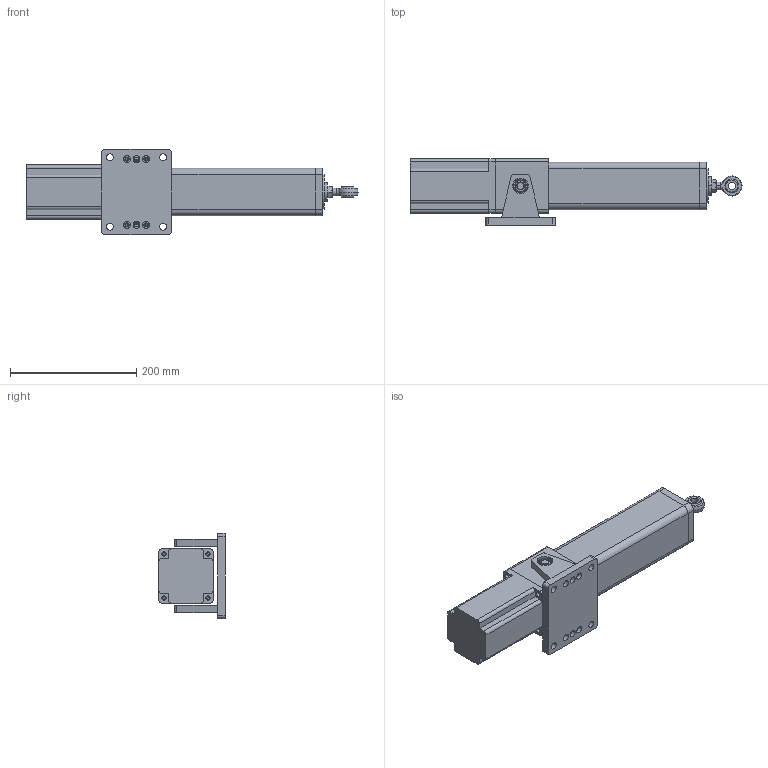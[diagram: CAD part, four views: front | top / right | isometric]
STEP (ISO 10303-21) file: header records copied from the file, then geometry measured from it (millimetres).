
FILE_DESCRIPTION (( 'STEP AP203' ), '1' );
FILE_NAME ('LSZ8610-150(20190806).STEP', '2019-08-06T05:56:09', ( '' ), ( '' ), 'SwSTEP 2.0', 'SolidWorks 2015', '' );
FILE_SCHEMA (( 'CONFIG_CONTROL_DESIGN' ));
Length unit declared in the file: millimetre
Products named in the file (1): LSZ8610-150(20190806)
Bounding box: 525.72 x 105 x 135 mm (x, y, z)
Surface area: 247391.1 mm2 (no closed solid volume)
Topology: 0 solids, 14 shells, 266 faces, 1258 edges, 908 vertices
Faces by surface type: cylinder 98, plane 81, sphere 60, torus 21, cone 6
Entity records: 13671 total; most frequent: CARTESIAN_POINT 4887, ORIENTED_EDGE 1755, DIRECTION 1754, EDGE_CURVE 1088, VERTEX_POINT 796, AXIS2_PLACEMENT_3D 751, CIRCLE 484, B_SPLINE_CURVE_WITH_KNOTS 352
